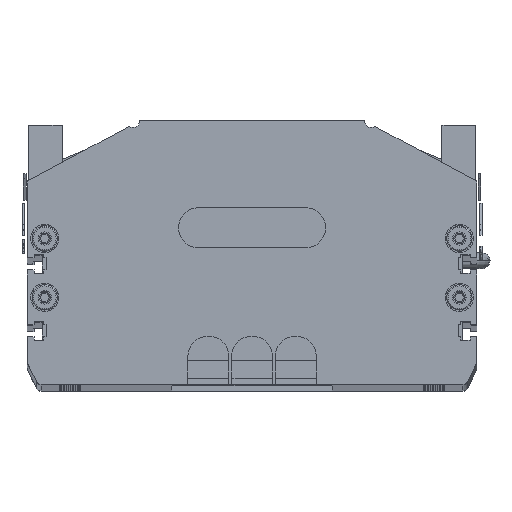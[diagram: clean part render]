
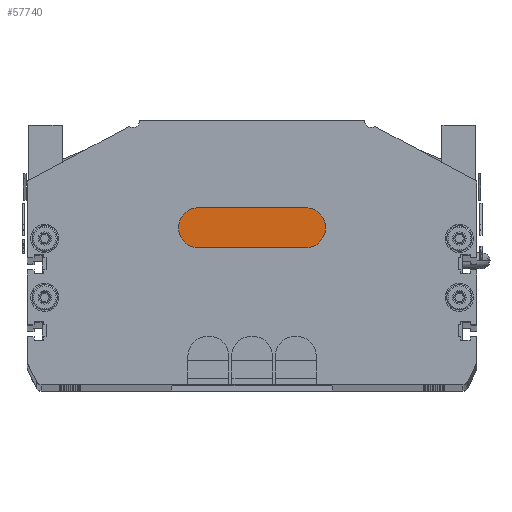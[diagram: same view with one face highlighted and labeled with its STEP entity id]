
A CAD part, top view. The second image highlights one B-rep face of the part: STEP entity #57740.
In plain terms, the highlighted planar face has unit normal (0, 0, 1).
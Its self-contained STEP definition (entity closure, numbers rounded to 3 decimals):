
#23674 = CIRCLE ( 'NONE', #23742, 7.5 ) ;
#23722 = DIRECTION ( 'NONE',  ( 0., 0., 1. ) ) ;
#23732 = DIRECTION ( 'NONE',  ( 1., 0., 0. ) ) ;
#23733 = DIRECTION ( 'NONE',  ( 0., 0., 1. ) ) ;
#23735 = CARTESIAN_POINT ( 'NONE',  ( -20., 25.75, 6. ) ) ;
#23736 = AXIS2_PLACEMENT_3D ( 'NONE', #23735, #23733, #23732 ) ;
#23738 = CARTESIAN_POINT ( 'NONE',  ( 20., 25.75, 6. ) ) ;
#23742 = AXIS2_PLACEMENT_3D ( 'NONE', #23738, #23722, #23862 ) ;
#23745 = CIRCLE ( 'NONE', #23736, 7.5 ) ;
#23756 = CARTESIAN_POINT ( 'NONE',  ( 20., 18.25, 6. ) ) ;
#23862 = DIRECTION ( 'NONE',  ( 1., 0., 0. ) ) ;
#23968 = DIRECTION ( 'NONE',  ( -1., 0., 0. ) ) ;
#23969 = VECTOR ( 'NONE', #23968, 1000. ) ;
#23971 = CARTESIAN_POINT ( 'NONE',  ( -20., 33.25, 6. ) ) ;
#23972 = LINE ( 'NONE', #23971, #23969 ) ;
#24169 = LINE ( 'NONE', #24277, #24275 ) ;
#24268 = CARTESIAN_POINT ( 'NONE',  ( -20., 18.25, 6. ) ) ;
#24269 = CARTESIAN_POINT ( 'NONE',  ( -20., 33.25, 6. ) ) ;
#24274 = DIRECTION ( 'NONE',  ( 1., 0., 0. ) ) ;
#24275 = VECTOR ( 'NONE', #24274, 1000. ) ;
#24277 = CARTESIAN_POINT ( 'NONE',  ( -20., 18.25, 6. ) ) ;
#24529 = FACE_OUTER_BOUND ( 'NONE', #57696, .T. ) ;
#24531 = PLANE ( 'NONE',  #24654 ) ;
#24654 = AXIS2_PLACEMENT_3D ( 'NONE', #24689, #24687, #24685 ) ;
#24685 = DIRECTION ( 'NONE',  ( 1., 0., 0. ) ) ;
#24687 = DIRECTION ( 'NONE',  ( 0., 0., 1. ) ) ;
#24689 = CARTESIAN_POINT ( 'NONE',  ( -20., 25.75, 6. ) ) ;
#42167 = VERTEX_POINT ( 'NONE', #54240 ) ;
#42230 = VERTEX_POINT ( 'NONE', #54383 ) ;
#42242 = EDGE_CURVE ( 'NONE', #42230, #42167, #54416, .T. ) ;
#54240 = CARTESIAN_POINT ( 'NONE',  ( 20., 33.25, 6. ) ) ;
#54383 = CARTESIAN_POINT ( 'NONE',  ( 27.5, 25.75, 6. ) ) ;
#54412 = AXIS2_PLACEMENT_3D ( 'NONE', #54461, #54460, #54459 ) ;
#54416 = CIRCLE ( 'NONE', #54412, 7.5 ) ;
#54459 = DIRECTION ( 'NONE',  ( 1., 0., 0. ) ) ;
#54460 = DIRECTION ( 'NONE',  ( 0., 0., 1. ) ) ;
#54461 = CARTESIAN_POINT ( 'NONE',  ( 20., 25.75, 6. ) ) ;
#57634 = EDGE_CURVE ( 'NONE', #57699, #57701, #23745, .T. ) ;
#57637 = EDGE_CURVE ( 'NONE', #57639, #42230, #23674, .T. ) ;
#57639 = VERTEX_POINT ( 'NONE', #23756 ) ;
#57645 = EDGE_CURVE ( 'NONE', #42167, #57699, #23972, .T. ) ;
#57660 = ORIENTED_EDGE ( 'NONE', *, *, #57637, .T. ) ;
#57667 = ORIENTED_EDGE ( 'NONE', *, *, #57694, .T. ) ;
#57670 = ORIENTED_EDGE ( 'NONE', *, *, #57634, .T. ) ;
#57694 = EDGE_CURVE ( 'NONE', #57701, #57639, #24169, .T. ) ;
#57696 = EDGE_LOOP ( 'NONE', ( #57670, #57667, #57660, #57733, #57707 ) ) ;
#57699 = VERTEX_POINT ( 'NONE', #24269 ) ;
#57701 = VERTEX_POINT ( 'NONE', #24268 ) ;
#57707 = ORIENTED_EDGE ( 'NONE', *, *, #57645, .T. ) ;
#57733 = ORIENTED_EDGE ( 'NONE', *, *, #42242, .T. ) ;
#57740 = ADVANCED_FACE ( 'NONE', ( #24529 ), #24531, .T. ) ;
